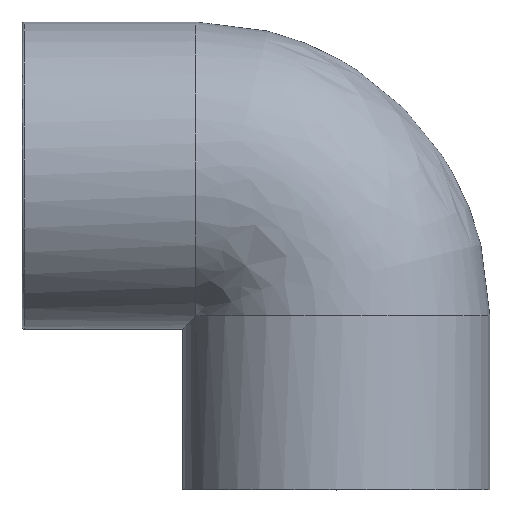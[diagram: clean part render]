
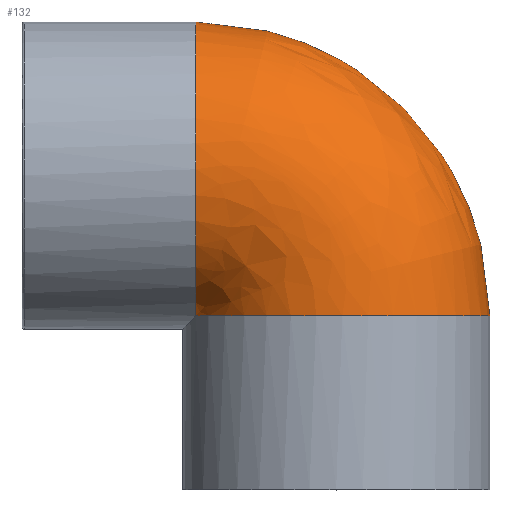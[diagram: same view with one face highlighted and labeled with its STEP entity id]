
A CAD part, top view. The second image highlights one B-rep face of the part: STEP entity #132.
In plain terms, the highlighted free-form (B-spline) face has degree [2, 2] with [9, 3] control points.
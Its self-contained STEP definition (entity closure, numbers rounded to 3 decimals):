
#16=(
BOUNDED_SURFACE()
B_SPLINE_SURFACE(2,2,((#226,#227,#228),(#229,#230,#231),(#232,#233,#234),
(#235,#236,#237),(#238,#239,#240),(#241,#242,#243),(#244,#245,#246),(#247,
#248,#249),(#250,#251,#252)),.UNSPECIFIED.,.F.,.F.,.F.)
B_SPLINE_SURFACE_WITH_KNOTS((3,2,2,2,3),(3,3),(-2.721,-1.361,
0.,1.361,2.721),(1.571,3.142),
 .UNSPECIFIED.)
GEOMETRIC_REPRESENTATION_ITEM()
RATIONAL_B_SPLINE_SURFACE(((1.,0.707,1.),(0.777,
0.55,0.777),(1.,0.707,1.),(0.777,
0.55,0.777),(1.,0.707,1.),(0.777,
0.55,0.777),(1.,0.707,1.),(0.777,
0.55,0.777),(1.,0.707,1.)))
REPRESENTATION_ITEM('')
SURFACE()
);
#40=FACE_OUTER_BOUND('',#56,.T.);
#56=EDGE_LOOP('',(#111,#112));
#73=CIRCLE('',#151,11.5);
#74=CIRCLE('',#152,11.5);
#84=VERTEX_POINT('',#253);
#85=VERTEX_POINT('',#254);
#95=EDGE_CURVE('',#84,#85,#73,.T.);
#96=EDGE_CURVE('',#85,#84,#74,.T.);
#111=ORIENTED_EDGE('',*,*,#95,.T.);
#112=ORIENTED_EDGE('',*,*,#96,.T.);
#132=ADVANCED_FACE('',(#40),#16,.F.);
#151=AXIS2_PLACEMENT_3D('',#255,#186,#187);
#152=AXIS2_PLACEMENT_3D('',#256,#188,#189);
#186=DIRECTION('center_axis',(1.,0.,0.));
#187=DIRECTION('ref_axis',(0.,0.,-1.));
#188=DIRECTION('center_axis',(0.,1.,0.));
#189=DIRECTION('ref_axis',(0.,0.,-1.));
#226=CARTESIAN_POINT('Ctrl Pts',(-10.5,-10.5,4.69));
#227=CARTESIAN_POINT('Ctrl Pts',(-10.5,-10.5,4.69));
#228=CARTESIAN_POINT('Ctrl Pts',(-10.5,-10.5,4.69));
#229=CARTESIAN_POINT('Ctrl Pts',(-10.5,-6.704,13.188));
#230=CARTESIAN_POINT('Ctrl Pts',(-6.704,-6.704,13.188));
#231=CARTESIAN_POINT('Ctrl Pts',(-6.704,-10.5,13.188));
#232=CARTESIAN_POINT('Ctrl Pts',(-10.5,2.398,11.247));
#233=CARTESIAN_POINT('Ctrl Pts',(2.398,2.398,11.247));
#234=CARTESIAN_POINT('Ctrl Pts',(2.398,-10.5,11.247));
#235=CARTESIAN_POINT('Ctrl Pts',(-10.5,11.5,9.307));
#236=CARTESIAN_POINT('Ctrl Pts',(11.5,11.5,9.307));
#237=CARTESIAN_POINT('Ctrl Pts',(11.5,-10.5,9.307));
#238=CARTESIAN_POINT('Ctrl Pts',(-10.5,11.5,0.));
#239=CARTESIAN_POINT('Ctrl Pts',(11.5,11.5,0.));
#240=CARTESIAN_POINT('Ctrl Pts',(11.5,-10.5,0.));
#241=CARTESIAN_POINT('Ctrl Pts',(-10.5,11.5,-9.307));
#242=CARTESIAN_POINT('Ctrl Pts',(11.5,11.5,-9.307));
#243=CARTESIAN_POINT('Ctrl Pts',(11.5,-10.5,-9.307));
#244=CARTESIAN_POINT('Ctrl Pts',(-10.5,2.398,-11.247));
#245=CARTESIAN_POINT('Ctrl Pts',(2.398,2.398,-11.247));
#246=CARTESIAN_POINT('Ctrl Pts',(2.398,-10.5,-11.247));
#247=CARTESIAN_POINT('Ctrl Pts',(-10.5,-6.704,-13.188));
#248=CARTESIAN_POINT('Ctrl Pts',(-6.704,-6.704,-13.188));
#249=CARTESIAN_POINT('Ctrl Pts',(-6.704,-10.5,-13.188));
#250=CARTESIAN_POINT('Ctrl Pts',(-10.5,-10.5,-4.69));
#251=CARTESIAN_POINT('Ctrl Pts',(-10.5,-10.5,-4.69));
#252=CARTESIAN_POINT('Ctrl Pts',(-10.5,-10.5,-4.69));
#253=CARTESIAN_POINT('',(-10.5,-10.5,-4.69));
#254=CARTESIAN_POINT('',(-10.5,-10.5,4.69));
#255=CARTESIAN_POINT('Origin',(-10.5,0.,0.));
#256=CARTESIAN_POINT('Origin',(0.,-10.5,0.));
